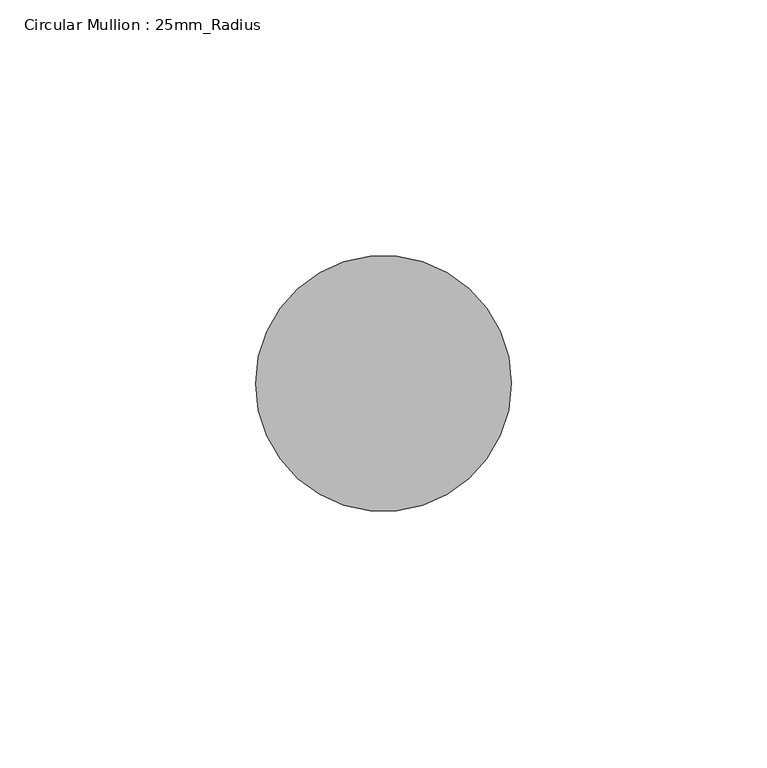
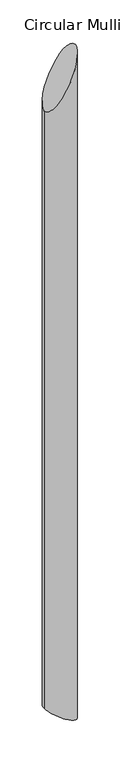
"""IFC4 building model written with IfcOpenShell, lengths in millimetres: member geometry, Circular Mullion : 25mm_Radius."""

from ifc_helpers import new_model, si_unit, frame, origin, place, context, project, spatial, ellipse_curve, source, transform, mapped, element, save
from ifc_brep_helpers import plane_surface, cylinder_surface, advanced_brep


def circular_mullion_25mm_radius_5d9c8dcf(model_context):
    return source(origin(), model_context, "Body", "AdvancedBrep", [
        advanced_brep(
        [(-50.0, 0.0, -97.5324853), (0.0, 0.0, 0.0), (0.0, 0.0, -1150.0), (-50.0, 0.0, -1123.6586936)],
        [
            (0, 1, ellipse_curve(frame((-25.0, 0.0, -48.7662427), z_axis=(0.8898791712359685, 0.0, -0.4561962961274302), x_axis=(0.4561962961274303, 0.0, 0.8898791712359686)), 54.800971, 25.0)),
            (1, 2),
            (2, 3, ellipse_curve(frame((-25.0, 0.0, -1136.8293468), z_axis=(0.46609996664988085, 0.0, 0.8847320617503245), x_axis=(-0.8847320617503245, 0.0, 0.46609996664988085)), 28.2571426, 25.0)),
            (3, 0),
            (1, 0, ellipse_curve(frame((-25.0, 0.0, -48.7662427), z_axis=(0.8898791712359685, 0.0, -0.4561962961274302), x_axis=(0.4561962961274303, 0.0, 0.8898791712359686)), 54.800971, 25.0)),
            (3, 2, ellipse_curve(frame((-25.0, 0.0, -1136.8293468), z_axis=(0.46609996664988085, 0.0, 0.8847320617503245), x_axis=(-0.8847320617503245, 0.0, 0.46609996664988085)), 28.2571426, 25.0)),
        ],
        [
            cylinder_surface(frame((-25.0, 0.0, 0.0), z_axis=(0.0, 0.0, 1.0), x_axis=(1.0, 0.0, 0.0)), 25.0),
            plane_surface(frame((0.0, -304.8, 0.0), z_axis=(-0.8898791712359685, 0.0, 0.4561962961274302), x_axis=(-0.4561962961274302, 0.0, -0.8898791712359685))),
            plane_surface(frame((0.0, -304.8, -1150.0), z_axis=(-0.46609996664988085, 0.0, -0.8847320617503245), x_axis=(-0.8847320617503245, 0.0, 0.46609996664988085))),
        ],
        [
            (0, [[1, 2, 3, 4]]),
            (0, [[5, -4, 6, -2]]),
            (1, [[-1, -5]]),
            (2, [[-6, -3]]),
        ],
    ),
    ])


if __name__ == "__main__":
    model = new_model("IFC4")
    model_context = context("Model", 3, world=origin())
    ifc_project = project(units=[si_unit("LENGTHUNIT", "METRE", prefix="MILLI")], contexts=[model_context])
    site = spatial("IfcSite", under=ifc_project)
    building = spatial("IfcBuilding", under=site)
    placement = place(None, origin())
    circular_mullion_25mm_radius_shape = circular_mullion_25mm_radius_5d9c8dcf(model_context)
    element("IfcMember", 1, ObjectType="Circular Mullion : 25mm_Radius", at=placement, inside=building, context=model_context, shape_type="MappedRepresentation", body=[
        mapped(circular_mullion_25mm_radius_shape, transform((0.0, 0.0, 0.0), x_axis=(1.0, 0.0, 0.0), y_axis=(0.0, 1.0, 0.0), z_axis=(0.0, 0.0, 1.0))),
    ])
    save(model, "model.ifc")
